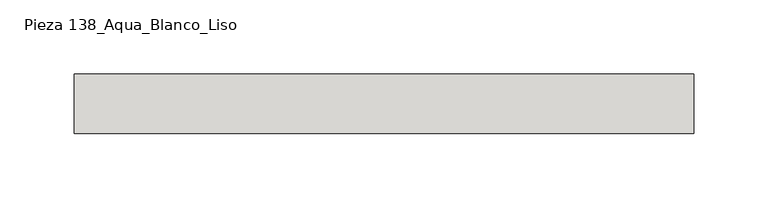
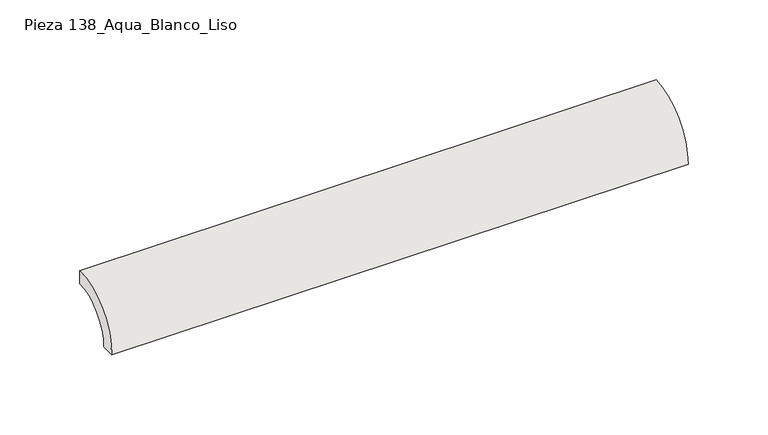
"""IFC4 building model written with IfcOpenShell, lengths in millimetres: slab geometry, ROSA GRES_138 : Pieza 138_Aqua_Blanco_Liso."""

from ifc_helpers import new_model, si_unit, point, frame, frame_2d, origin, origin_2d, place, context, project, spatial, polyline, circle_curve, trimmed, segment, composite_curve, outline, extrude, source, transform, mapped, element, save


def pieza_138_aqua_blanco_liso_9b706f35(model_context):
    return source(origin(), model_context, "Body", "SweptSolid", [
        extrude(outline(composite_curve([segment(polyline([(0.0, 40.0), (0.0, 30.0265886)]), True, "CONTINUOUS"), segment(trimmed(circle_curve(frame_2d((-0.0044453, 0.0044453)), 30.0221435), [point((0.0, 30.0265886))], [point((-30.0265886, 0.0))], True, "CARTESIAN"), True, "CONTINUOUS"), segment(polyline([(-30.0265886, 0.0), (-40.0, 0.0)]), True, "CONTINUOUS"), segment(trimmed(circle_curve(origin_2d(), 40.0), [point((-40.0, 0.0))], [point((0.0, 40.0))], False, "CARTESIAN"), True, "CONTINUOUS")], self_intersect=False)), frame((0.0, 0.0, 0.0), z_axis=(1.0, 0.0, 0.0), x_axis=(0.0, 1.0, 0.0)), (0.0, 0.0, 1.0), 416.0),
    ])


if __name__ == "__main__":
    model = new_model("IFC4")
    model_context = context("Model", 3, world=origin())
    ifc_project = project(units=[si_unit("LENGTHUNIT", "METRE", prefix="MILLI")], contexts=[model_context])
    site = spatial("IfcSite", under=ifc_project)
    building = spatial("IfcBuilding", under=site)
    placement = place(None, origin())
    pieza_138_aqua_blanco_liso_shape = pieza_138_aqua_blanco_liso_9b706f35(model_context)
    element("IfcSlab", 1, ObjectType="ROSA GRES_138 : Pieza 138_Aqua_Blanco_Liso", at=placement, inside=building, context=model_context, shape_type="MappedRepresentation", body=[
        mapped(pieza_138_aqua_blanco_liso_shape, transform((0.0, 0.0, 0.0), x_axis=(1.0, 0.0, 0.0), y_axis=(0.0, 1.0, 0.0), z_axis=(0.0, 0.0, 1.0))),
    ])
    save(model, "model.ifc")
